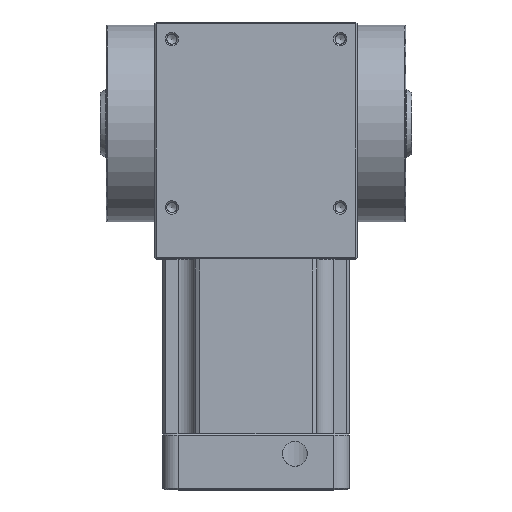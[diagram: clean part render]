
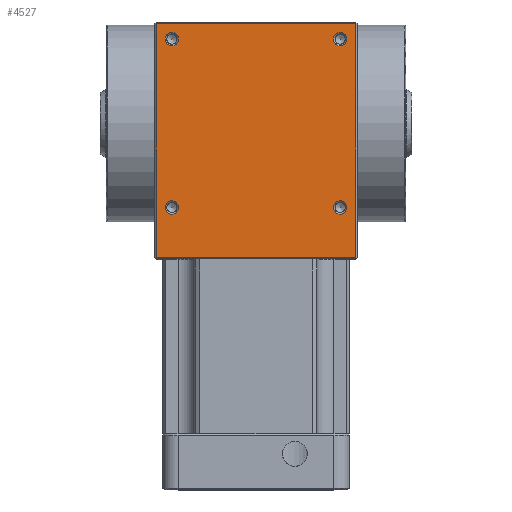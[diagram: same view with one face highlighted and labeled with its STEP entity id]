
A CAD part, top view. The second image highlights one B-rep face of the part: STEP entity #4527.
In plain terms, the highlighted planar face has unit normal (0, 0, 1).
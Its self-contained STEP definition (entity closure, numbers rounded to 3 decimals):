
#4408=CARTESIAN_POINT('',(-32.0,-43.0,65.0));
#4409=VERTEX_POINT('',#4408);
#4416=CARTESIAN_POINT('',(-32.0,32.,65.0));
#4417=VERTEX_POINT('',#4416);
#4418=CARTESIAN_POINT('',(-32.0,32.,65.0));
#4419=DIRECTION('',(0.0,-1.0,0.0));
#4420=VECTOR('',#4419,75.);
#4421=LINE('',#4418,#4420);
#4422=EDGE_CURVE('',#4417,#4409,#4421,.T.);
#4440=CARTESIAN_POINT('',(32.0,-43.0,65.0));
#4441=VERTEX_POINT('',#4440);
#4448=CARTESIAN_POINT('',(32.0,-43.0,65.0));
#4449=DIRECTION('',(-1.0,0.0,0.0));
#4450=VECTOR('',#4449,64.0);
#4451=LINE('',#4448,#4450);
#4452=EDGE_CURVE('',#4441,#4409,#4451,.T.);
#4460=CARTESIAN_POINT('',(0.,0.0,65.0));
#4461=DIRECTION('',(0.0,0.0,1.0));
#4462=DIRECTION('',(1.0,0.0,0.0));
#4463=AXIS2_PLACEMENT_3D('',#4460,#4461,#4462);
#4464=PLANE('',#4463);
#4465=ORIENTED_EDGE('',*,*,#4452,.F.);
#4466=CARTESIAN_POINT('',(32.0,32.0,65.0));
#4467=VERTEX_POINT('',#4466);
#4468=CARTESIAN_POINT('',(32.0,32.0,65.0));
#4469=DIRECTION('',(0.0,-1.0,0.0));
#4470=VECTOR('',#4469,75.0);
#4471=LINE('',#4468,#4470);
#4472=EDGE_CURVE('',#4467,#4441,#4471,.T.);
#4473=ORIENTED_EDGE('',*,*,#4472,.F.);
#4474=CARTESIAN_POINT('',(-32.0,32.0,65.0));
#4475=DIRECTION('',(1.0,0.0,0.0));
#4476=VECTOR('',#4475,64.0);
#4477=LINE('',#4474,#4476);
#4478=EDGE_CURVE('',#4417,#4467,#4477,.T.);
#4479=ORIENTED_EDGE('',*,*,#4478,.F.);
#4480=ORIENTED_EDGE('',*,*,#4422,.T.);
#4481=EDGE_LOOP('',(#4465,#4473,#4479,#4480));
#4482=FACE_OUTER_BOUND('',#4481,.T.);
#4483=CARTESIAN_POINT('',(-24.879,-27.0,65.0));
#4484=VERTEX_POINT('',#4483);
#4485=CARTESIAN_POINT('',(-27.,-27.0,65.0));
#4486=DIRECTION('',(0.0,0.0,1.0));
#4487=DIRECTION('',(-1.0,0.0,0.0));
#4488=AXIS2_PLACEMENT_3D('',#4485,#4486,#4487);
#4489=CIRCLE('',#4488,2.121);
#4490=EDGE_CURVE('',#4484,#4484,#4489,.T.);
#4491=ORIENTED_EDGE('',*,*,#4490,.F.);
#4492=EDGE_LOOP('',(#4491));
#4493=FACE_BOUND('',#4492,.T.);
#4494=CARTESIAN_POINT('',(29.121,27.0,65.0));
#4495=VERTEX_POINT('',#4494);
#4496=CARTESIAN_POINT('',(27.0,27.0,65.0));
#4497=DIRECTION('',(0.0,0.0,1.0));
#4498=DIRECTION('',(-1.0,0.0,0.0));
#4499=AXIS2_PLACEMENT_3D('',#4496,#4497,#4498);
#4500=CIRCLE('',#4499,2.121);
#4501=EDGE_CURVE('',#4495,#4495,#4500,.T.);
#4502=ORIENTED_EDGE('',*,*,#4501,.F.);
#4503=EDGE_LOOP('',(#4502));
#4504=FACE_BOUND('',#4503,.T.);
#4505=CARTESIAN_POINT('',(-24.879,27.0,65.0));
#4506=VERTEX_POINT('',#4505);
#4507=CARTESIAN_POINT('',(-27.,27.0,65.0));
#4508=DIRECTION('',(0.0,0.0,1.0));
#4509=DIRECTION('',(-1.0,0.0,0.0));
#4510=AXIS2_PLACEMENT_3D('',#4507,#4508,#4509);
#4511=CIRCLE('',#4510,2.121);
#4512=EDGE_CURVE('',#4506,#4506,#4511,.T.);
#4513=ORIENTED_EDGE('',*,*,#4512,.F.);
#4514=EDGE_LOOP('',(#4513));
#4515=FACE_BOUND('',#4514,.T.);
#4516=CARTESIAN_POINT('',(29.121,-27.0,65.0));
#4517=VERTEX_POINT('',#4516);
#4518=CARTESIAN_POINT('',(27.,-27.0,65.0));
#4519=DIRECTION('',(0.0,0.0,1.0));
#4520=DIRECTION('',(-1.0,0.0,0.0));
#4521=AXIS2_PLACEMENT_3D('',#4518,#4519,#4520);
#4522=CIRCLE('',#4521,2.121);
#4523=EDGE_CURVE('',#4517,#4517,#4522,.T.);
#4524=ORIENTED_EDGE('',*,*,#4523,.F.);
#4525=EDGE_LOOP('',(#4524));
#4526=FACE_BOUND('',#4525,.T.);
#4527=ADVANCED_FACE('',(#4482,#4493,#4504,#4515,#4526),#4464,.T.);
